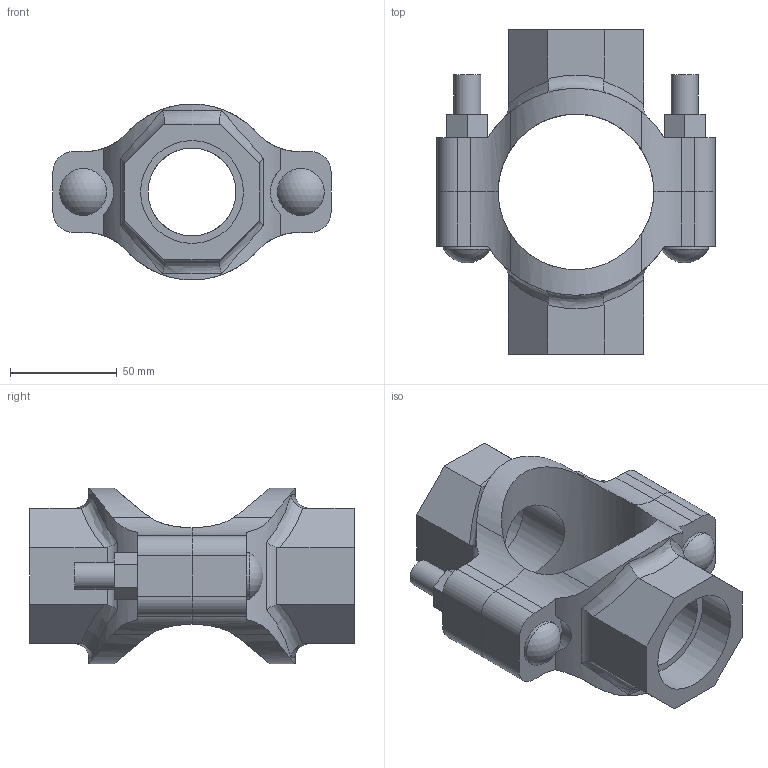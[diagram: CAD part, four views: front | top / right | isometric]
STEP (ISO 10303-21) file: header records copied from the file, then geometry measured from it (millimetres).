
FILE_DESCRIPTION(/* description */ ('VIC MECH-T BRANCH OUTLET CROSS STYLE 920N (THD)','CAx-IF Rec.Pracs.---Representation and Presentation of Product Manufacturing Information (PMI)---4.0---2014-10-13'),/* implementation_level */ '2;1');
FILE_NAME(/* name */ 'C:\Users\Vjadhav\AppData\Roaming\Autodesk\ApplicationPlugins\Back Up\Victaulic_IPS_Mechanical-Cross Outlet_Style 920N (FPT)\Victaulic_IPS_Mechanical-Cross Outlet_02.5x01.5x01.5 (65x40x40).stp',/* time_stamp */ '2020-08-06T18:56:52+05:00',/* author */ ('Vjadhav'),/* organization */ ('Victaulic'),/* preprocessor_version */ 'ST-DEVELOPER v17.2',/* originating_system */ 'Autodesk Inventor 2019',/* authorisation */ '');
FILE_SCHEMA (('AP242_MANAGED_MODEL_BASED_3D_ENGINEERING_MIM_LF { 1 0 10303 442 1 1 4 }'));
Length unit declared in the file: inch
Products named in the file (3): 920NT-02.5x01.5x01.5; 920NT-02.5x01.5; 920NT-02.5x01.5_1
Assembly tree (2 placements, depth 2):
  920NT-02.5x01.5x01.5
    920NT-02.5x01.5
    920NT-02.5x01.5_1
Bounding box: 130.56 x 152.4 x 82.55 mm (x, y, z)
Volume: 340971.4 mm3; surface area: 82553.4 mm2
Topology: 2 solids, 2 shells, 132 faces, 350 edges, 236 vertices
Faces by surface type: plane 68, cylinder 50, bspline 8, torus 4, sphere 2
Full cylindrical faces by diameter (mm): 12.7 x4, 21.982 x2, 41.275 x2, 48.26 x2
Entity records: 5134 total; most frequent: CARTESIAN_POINT 1621, ORIENTED_EDGE 700, DIRECTION 648, EDGE_CURVE 350, VERTEX_POINT 236, AXIS2_PLACEMENT_3D 231, LINE 186, VECTOR 186
